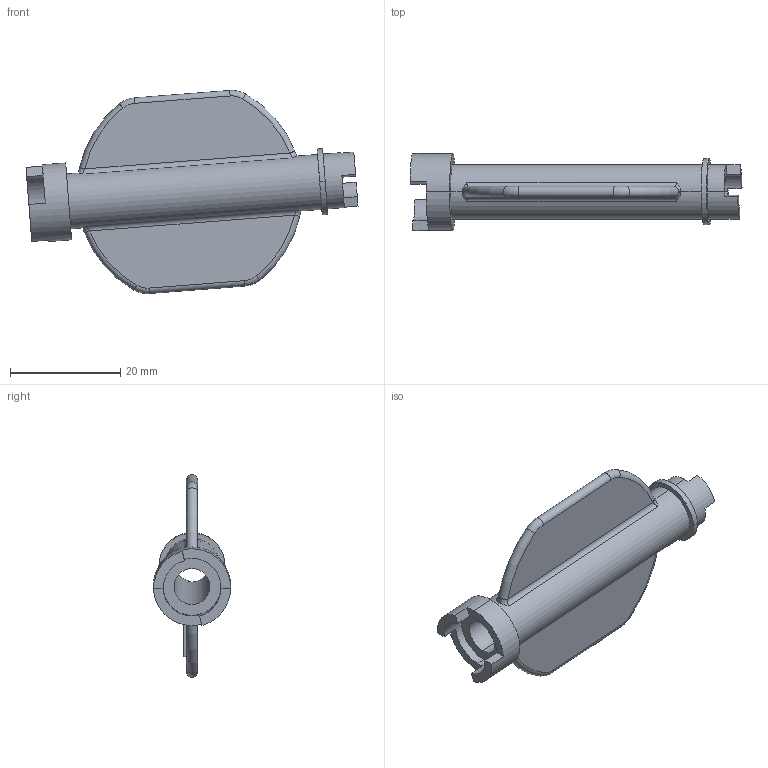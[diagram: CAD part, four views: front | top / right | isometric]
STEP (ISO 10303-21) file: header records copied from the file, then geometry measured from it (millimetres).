
FILE_DESCRIPTION((''),'2;1');
FILE_NAME('0000237106_PRT','2025-11-12T18:35:46',('Wyndorps'),(''),'CREO PARAMETRIC BY PTC INC, 2025010','CREO PARAMETRIC BY PTC INC, 2025010','');
FILE_SCHEMA(('CONFIG_CONTROL_DESIGN'));
Length unit declared in the file: millimetre
Products named in the file (1): 0000237106_PRT
Bounding box: 60.34 x 14 x 36.91 mm (x, y, z)
Volume: 4556.6 mm3; surface area: 5067 mm2
Topology: 1 solids, 1 shells, 125 faces, 330 edges, 216 vertices
Faces by surface type: plane 60, extrusion 27, cylinder 22, torus 8, bspline 8
Entity records: 4620 total; most frequent: CARTESIAN_POINT 1613, ORIENTED_EDGE 660, DIRECTION 523, EDGE_CURVE 330, VERTEX_POINT 216, VECTOR 199, LINE 172, AXIS2_PLACEMENT_3D 162
